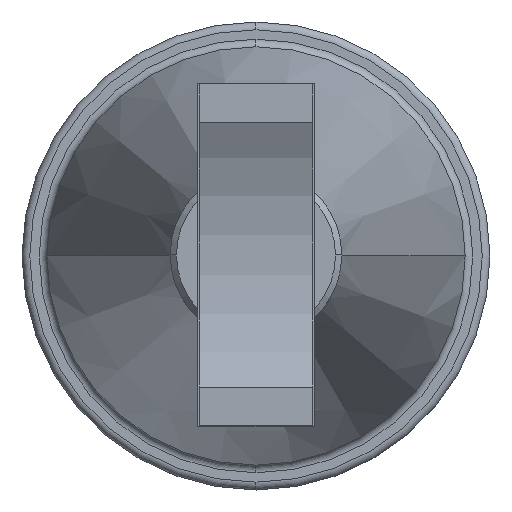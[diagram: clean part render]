
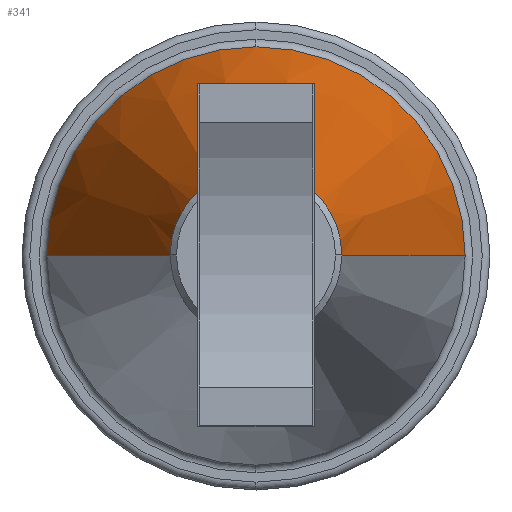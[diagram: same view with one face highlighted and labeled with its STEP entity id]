
A CAD part, top view. The second image highlights one B-rep face of the part: STEP entity #341.
In plain terms, the highlighted conical face has half-angle 13.35 degrees and reference radius 94.544 mm.
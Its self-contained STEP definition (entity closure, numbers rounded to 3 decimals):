
#341=ADVANCED_FACE('',(#695),#696,.T.);
#695=FACE_OUTER_BOUND('',#1097,.T.);
#696=CONICAL_SURFACE('',#1098,94.544,0.233);
#1097=EDGE_LOOP('',(#1879,#1880,#1881,#1882,#1883));
#1098=AXIS2_PLACEMENT_3D('',#1884,#1885,#1886);
#1879=ORIENTED_EDGE('',*,*,#2434,.T.);
#1880=ORIENTED_EDGE('',*,*,#2550,.F.);
#1881=ORIENTED_EDGE('',*,*,#2415,.F.);
#1882=ORIENTED_EDGE('',*,*,#2436,.T.);
#1883=ORIENTED_EDGE('',*,*,#2551,.T.);
#1884=CARTESIAN_POINT('',(416.821,529.421,-130.052));
#1885=DIRECTION('',(0.,0.,-1.0));
#1886=DIRECTION('',(1.0,0.,0.));
#2415=EDGE_CURVE('',#2874,#2876,#2877,.T.);
#2434=EDGE_CURVE('',#2909,#2910,#2911,.T.);
#2436=EDGE_CURVE('',#2874,#2912,#2914,.T.);
#2550=EDGE_CURVE('',#2876,#2910,#3087,.T.);
#2551=EDGE_CURVE('',#2912,#2909,#3088,.T.);
#2874=VERTEX_POINT('',#3604);
#2876=VERTEX_POINT('',#3606);
#2877=CIRCLE('',#3607,134.087);
#2909=VERTEX_POINT('',#3670);
#2910=VERTEX_POINT('',#3671);
#2911=LINE('',#3672,#3673);
#2912=VERTEX_POINT('',#3674);
#2914=LINE('',#3676,#3677);
#3087=CIRCLE('',#4232,134.087);
#3088=CIRCLE('',#4233,55.0);
#3604=CARTESIAN_POINT('',(282.733,529.421,-296.688));
#3606=CARTESIAN_POINT('',(416.821,663.509,-296.688));
#3607=AXIS2_PLACEMENT_3D('',#4600,#4601,#4602);
#3670=CARTESIAN_POINT('',(471.821,529.421,36.583));
#3671=CARTESIAN_POINT('',(550.908,529.421,-296.688));
#3672=CARTESIAN_POINT('',(511.364,529.421,-130.052));
#3673=VECTOR('',#4624,1.0);
#3674=CARTESIAN_POINT('',(361.821,529.421,36.583));
#3676=CARTESIAN_POINT('',(322.277,529.421,-130.052));
#3677=VECTOR('',#4628,1.0);
#4232=AXIS2_PLACEMENT_3D('',#4736,#4737,#4738);
#4233=AXIS2_PLACEMENT_3D('',#4739,#4740,#4741);
#4600=CARTESIAN_POINT('',(416.821,529.421,-296.688));
#4601=DIRECTION('',(0.,0.,-1.0));
#4602=DIRECTION('',(1.0,0.,0.));
#4624=DIRECTION('',(0.231,0.,-0.973));
#4628=DIRECTION('',(0.231,0.,0.973));
#4736=CARTESIAN_POINT('',(416.821,529.421,-296.688));
#4737=DIRECTION('',(0.,0.,-1.0));
#4738=DIRECTION('',(1.0,0.,0.));
#4739=CARTESIAN_POINT('',(416.821,529.421,36.583));
#4740=DIRECTION('',(0.,0.,-1.0));
#4741=DIRECTION('',(1.0,0.,0.));
